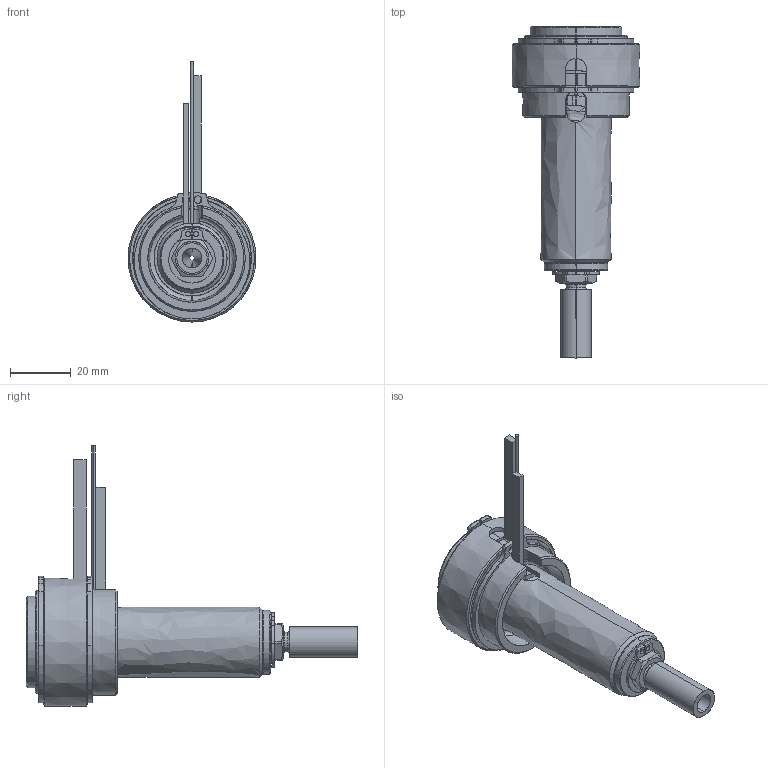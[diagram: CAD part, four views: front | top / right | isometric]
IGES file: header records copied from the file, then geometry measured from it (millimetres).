
Start section: SolidWorks IGES file using analytic representation for surfaces
Global section: file name: C:\Users\luca.EMPAD\Desktop\TEM\UGBE3501-M-A-P-5 [Ød-1.5 P-20 ØC-7.0].IGS; native system: SolidWorks 2012; preprocessor: SolidWorks 2012; author: luca; date: 120330.140324; units: millimetre
Bounding box: 42 x 109 x 85.4 mm (x, y, z)
Surface area: 27756.2 mm2 (no closed solid volume)
Topology: 0 solids, 0 shells, 183 faces, 3314 edges, 3314 vertices
Faces by surface type: revolution 116, bspline 67
